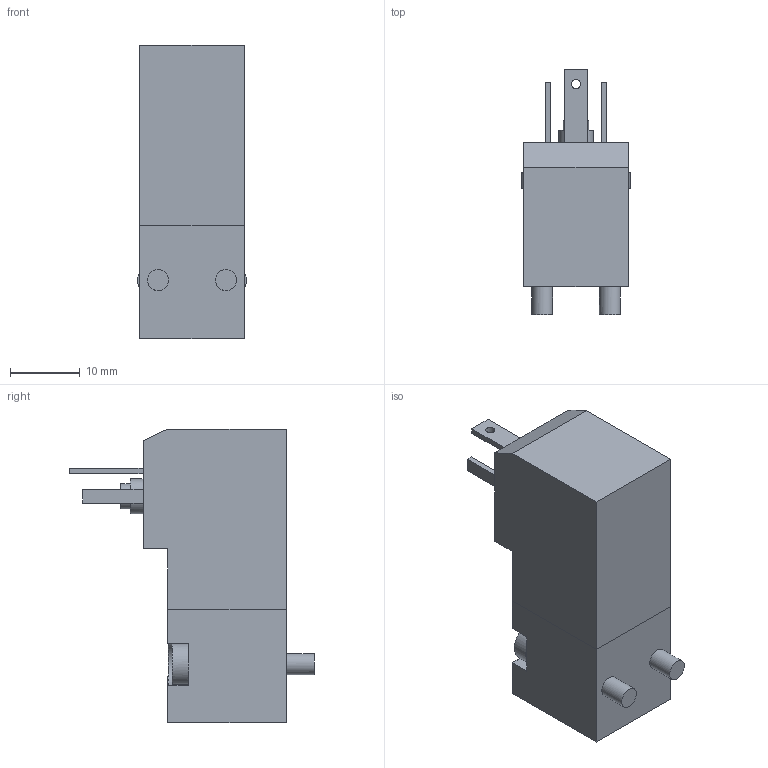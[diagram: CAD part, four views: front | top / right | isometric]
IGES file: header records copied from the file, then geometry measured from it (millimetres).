
Global section: file name: N3##_1#; native system: Autodesk Inventor 2014; preprocessor: unknown; author: A. Manieri; organization: Pneumax S.p.A.; date: 20160908.141655; units: millimetre
Bounding box: 15.5 x 35 x 42 mm (x, y, z)
Volume: 11604.4 mm3; surface area: 3934.8 mm2
Topology: 1 solids, 1 shells, 92 faces, 231 edges, 152 vertices
Faces by surface type: bspline 92
